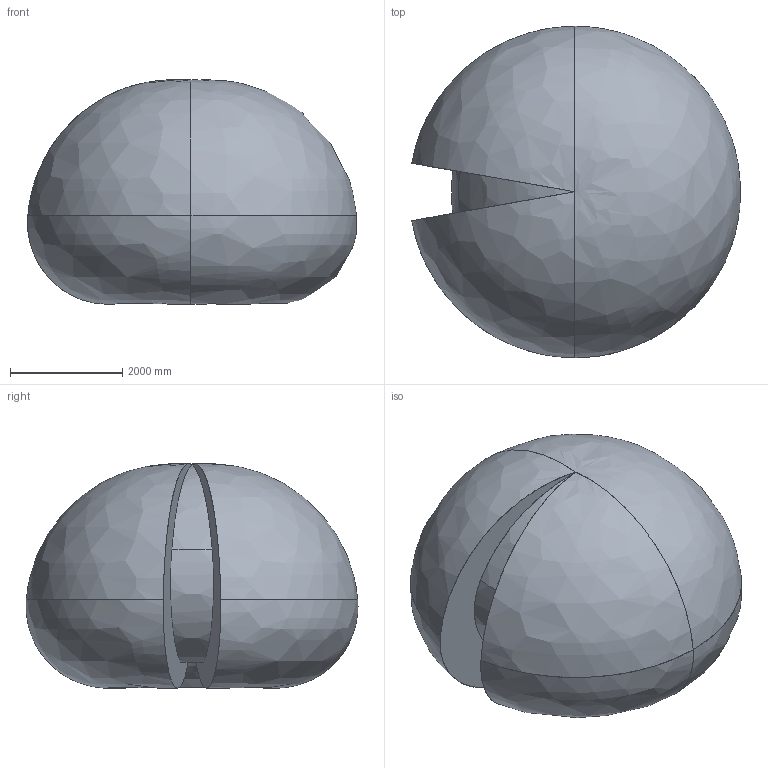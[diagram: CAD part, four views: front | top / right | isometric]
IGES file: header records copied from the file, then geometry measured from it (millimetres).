
Start section: SolidWorks IGES file using analytic representation for surfaces
Global section: file name: C:\Users\seamsto1\Desktop\Lättvikt\IRB6710_200kg-295_OC_00_SW_J\IRB6710_200kg-295_OC_00_IGES_J\IRB6710_200kg-295_OC_00_Working-space.IGS; native system: SolidWorks 2020; preprocessor: SolidWorks 2020; author: SEAMSTO1; date: 230510.101808; units: millimetre
Bounding box: 5866.9 x 5919.5 x 4000.26 mm (x, y, z)
Surface area: 113773658.7 mm2 (no closed solid volume)
Topology: 0 solids, 0 shells, 22 faces, 470 edges, 462 vertices
Faces by surface type: bspline 22
